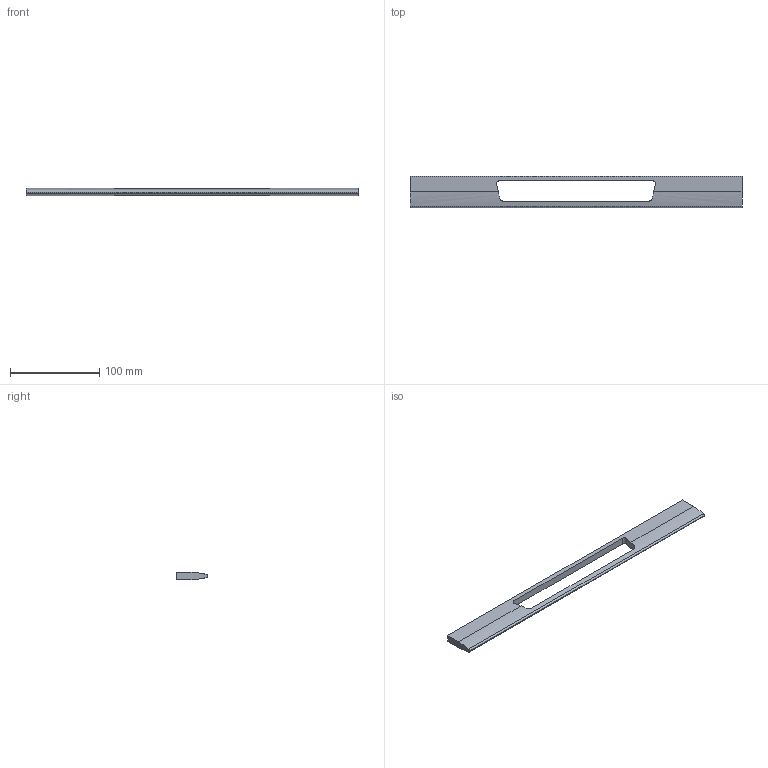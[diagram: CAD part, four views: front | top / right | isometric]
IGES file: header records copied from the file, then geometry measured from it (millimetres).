
Start section: Data from Parasolid IGES Translator 15.0.47, Copyright(c) 2006 Siemens P LM Software. All Rights Reserved.
Global section: file name: 9105839.igs; native system:  By UGS Corp.; preprocessor: XPlus GENERIC/IGES 3.0; author: Noname; organization: Noname; date: 20140122.182926; units: millimetre
Bounding box: 373 x 35 x 8 mm (x, y, z)
Surface area: 25448.5 mm2 (no closed solid volume)
Topology: 0 solids, 0 shells, 22 faces, 120 edges, 118 vertices
Faces by surface type: revolution 11, extrusion 11
